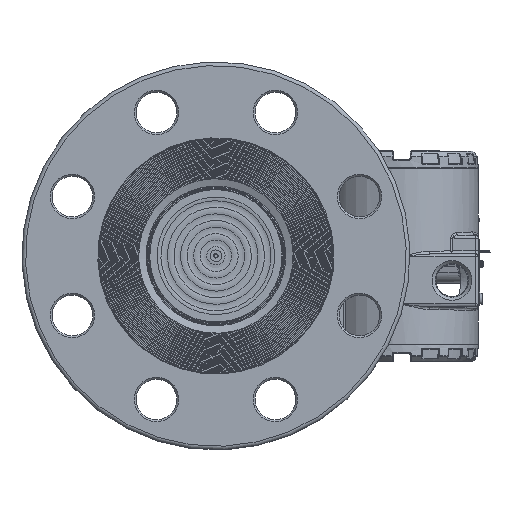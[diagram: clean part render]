
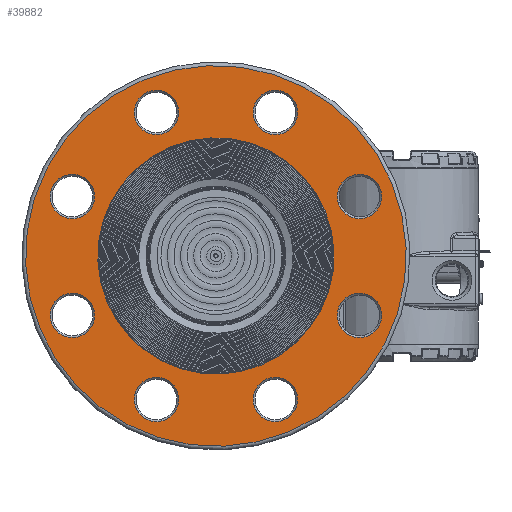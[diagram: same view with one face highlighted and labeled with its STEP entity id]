
A CAD part, top view. The second image highlights one B-rep face of the part: STEP entity #39882.
In plain terms, the highlighted planar face has unit normal (0, 0, 1).
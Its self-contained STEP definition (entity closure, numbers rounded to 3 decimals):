
#760=FACE_BOUND('',#6763,.T.);
#761=FACE_BOUND('',#6764,.T.);
#762=FACE_BOUND('',#6765,.T.);
#763=FACE_BOUND('',#6766,.T.);
#764=FACE_BOUND('',#6767,.T.);
#765=FACE_BOUND('',#6768,.T.);
#766=FACE_BOUND('',#6769,.T.);
#767=FACE_BOUND('',#6770,.T.);
#768=FACE_BOUND('',#6771,.T.);
#2825=PLANE('',#44264);
#4050=FACE_OUTER_BOUND('',#6762,.T.);
#6762=EDGE_LOOP('',(#30338));
#6763=EDGE_LOOP('',(#30339));
#6764=EDGE_LOOP('',(#30340));
#6765=EDGE_LOOP('',(#30341));
#6766=EDGE_LOOP('',(#30342));
#6767=EDGE_LOOP('',(#30343));
#6768=EDGE_LOOP('',(#30344));
#6769=EDGE_LOOP('',(#30345));
#6770=EDGE_LOOP('',(#30346));
#6771=EDGE_LOOP('',(#30347,#30348));
#12719=CIRCLE('',#44259,63.9);
#12723=CIRCLE('',#44263,63.9);
#12724=CIRCLE('',#44265,103.);
#12725=CIRCLE('',#44266,12.);
#12726=CIRCLE('',#44267,12.);
#12727=CIRCLE('',#44268,12.);
#12728=CIRCLE('',#44269,12.);
#12729=CIRCLE('',#44270,12.);
#12730=CIRCLE('',#44271,12.);
#12731=CIRCLE('',#44272,12.);
#12732=CIRCLE('',#44273,12.);
#17378=VERTEX_POINT('',#70946);
#17379=VERTEX_POINT('',#70947);
#17382=VERTEX_POINT('',#70956);
#17383=VERTEX_POINT('',#70958);
#17384=VERTEX_POINT('',#70960);
#17385=VERTEX_POINT('',#70962);
#17386=VERTEX_POINT('',#70964);
#17387=VERTEX_POINT('',#70966);
#17388=VERTEX_POINT('',#70968);
#17389=VERTEX_POINT('',#70970);
#17390=VERTEX_POINT('',#70972);
#21964=EDGE_CURVE('',#17378,#17379,#12719,.T.);
#21968=EDGE_CURVE('',#17379,#17378,#12723,.T.);
#21969=EDGE_CURVE('',#17382,#17382,#12724,.T.);
#21970=EDGE_CURVE('',#17383,#17383,#12725,.T.);
#21971=EDGE_CURVE('',#17384,#17384,#12726,.T.);
#21972=EDGE_CURVE('',#17385,#17385,#12727,.T.);
#21973=EDGE_CURVE('',#17386,#17386,#12728,.T.);
#21974=EDGE_CURVE('',#17387,#17387,#12729,.T.);
#21975=EDGE_CURVE('',#17388,#17388,#12730,.T.);
#21976=EDGE_CURVE('',#17389,#17389,#12731,.T.);
#21977=EDGE_CURVE('',#17390,#17390,#12732,.T.);
#30338=ORIENTED_EDGE('',*,*,#21969,.F.);
#30339=ORIENTED_EDGE('',*,*,#21970,.F.);
#30340=ORIENTED_EDGE('',*,*,#21971,.F.);
#30341=ORIENTED_EDGE('',*,*,#21972,.F.);
#30342=ORIENTED_EDGE('',*,*,#21973,.F.);
#30343=ORIENTED_EDGE('',*,*,#21974,.F.);
#30344=ORIENTED_EDGE('',*,*,#21975,.F.);
#30345=ORIENTED_EDGE('',*,*,#21976,.F.);
#30346=ORIENTED_EDGE('',*,*,#21977,.F.);
#30347=ORIENTED_EDGE('',*,*,#21964,.F.);
#30348=ORIENTED_EDGE('',*,*,#21968,.F.);
#39882=ADVANCED_FACE('',(#4050,#760,#761,#762,#763,#764,#765,#766,#767,
#768),#2825,.T.);
#44259=AXIS2_PLACEMENT_3D('',#70948,#52364,#52365);
#44263=AXIS2_PLACEMENT_3D('',#70954,#52372,#52373);
#44264=AXIS2_PLACEMENT_3D('',#70955,#52374,#52375);
#44265=AXIS2_PLACEMENT_3D('',#70957,#52376,#52377);
#44266=AXIS2_PLACEMENT_3D('',#70959,#52378,#52379);
#44267=AXIS2_PLACEMENT_3D('',#70961,#52380,#52381);
#44268=AXIS2_PLACEMENT_3D('',#70963,#52382,#52383);
#44269=AXIS2_PLACEMENT_3D('',#70965,#52384,#52385);
#44270=AXIS2_PLACEMENT_3D('',#70967,#52386,#52387);
#44271=AXIS2_PLACEMENT_3D('',#70969,#52388,#52389);
#44272=AXIS2_PLACEMENT_3D('',#70971,#52390,#52391);
#44273=AXIS2_PLACEMENT_3D('',#70973,#52392,#52393);
#52364=DIRECTION('center_axis',(0.,0.,1.));
#52365=DIRECTION('ref_axis',(-1.,0.,0.));
#52372=DIRECTION('center_axis',(0.,0.,1.));
#52373=DIRECTION('ref_axis',(-1.,0.,0.));
#52374=DIRECTION('center_axis',(0.,0.,1.));
#52375=DIRECTION('ref_axis',(1.,0.,0.));
#52376=DIRECTION('center_axis',(0.,0.,-1.));
#52377=DIRECTION('ref_axis',(-1.,0.,0.));
#52378=DIRECTION('center_axis',(0.,0.,1.));
#52379=DIRECTION('ref_axis',(0.,1.,0.));
#52380=DIRECTION('center_axis',(0.,0.,1.));
#52381=DIRECTION('ref_axis',(1.,0.,0.));
#52382=DIRECTION('center_axis',(0.,0.,1.));
#52383=DIRECTION('ref_axis',(-1.,0.,0.));
#52384=DIRECTION('center_axis',(0.,0.,1.));
#52385=DIRECTION('ref_axis',(0.707,-0.707,0.));
#52386=DIRECTION('center_axis',(0.,0.,1.));
#52387=DIRECTION('ref_axis',(0.,-1.,0.));
#52388=DIRECTION('center_axis',(0.,0.,1.));
#52389=DIRECTION('ref_axis',(-0.707,-0.707,0.));
#52390=DIRECTION('center_axis',(0.,0.,1.));
#52391=DIRECTION('ref_axis',(0.707,0.707,0.));
#52392=DIRECTION('center_axis',(0.,0.,1.));
#52393=DIRECTION('ref_axis',(-0.707,0.707,0.));
#70946=CARTESIAN_POINT('',(63.9,0.,27.));
#70947=CARTESIAN_POINT('',(-63.9,0.,27.));
#70948=CARTESIAN_POINT('Origin',(0.,0.,27.));
#70954=CARTESIAN_POINT('Origin',(0.,0.,27.));
#70955=CARTESIAN_POINT('Origin',(0.,0.,27.));
#70956=CARTESIAN_POINT('',(103.,0.,27.));
#70957=CARTESIAN_POINT('Origin',(0.,0.,27.));
#70958=CARTESIAN_POINT('',(84.05,-12.,27.));
#70959=CARTESIAN_POINT('Origin',(84.05,0.,27.));
#70960=CARTESIAN_POINT('',(-12.,-84.05,27.));
#70961=CARTESIAN_POINT('Origin',(0.,-84.05,27.));
#70962=CARTESIAN_POINT('',(12.,84.05,27.));
#70963=CARTESIAN_POINT('Origin',(0.,84.05,27.));
#70964=CARTESIAN_POINT('',(-67.918,-50.947,27.));
#70965=CARTESIAN_POINT('Origin',(-59.432,-59.432,27.));
#70966=CARTESIAN_POINT('',(-84.05,12.,27.));
#70967=CARTESIAN_POINT('Origin',(-84.05,0.,27.));
#70968=CARTESIAN_POINT('',(-50.947,67.918,27.));
#70969=CARTESIAN_POINT('Origin',(-59.432,59.432,27.));
#70970=CARTESIAN_POINT('',(50.947,-67.918,27.));
#70971=CARTESIAN_POINT('Origin',(59.432,-59.432,27.));
#70972=CARTESIAN_POINT('',(67.918,50.947,27.));
#70973=CARTESIAN_POINT('Origin',(59.432,59.432,27.));
